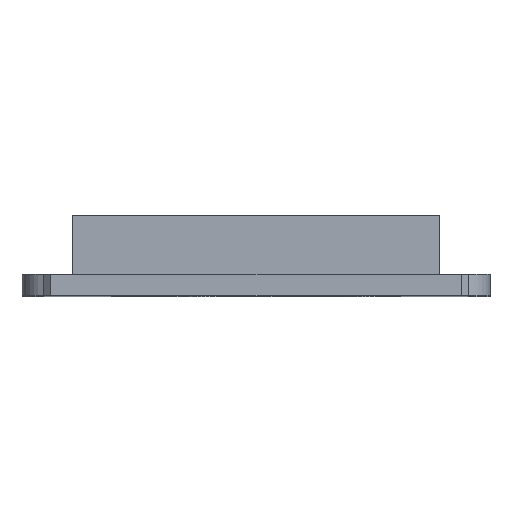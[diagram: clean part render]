
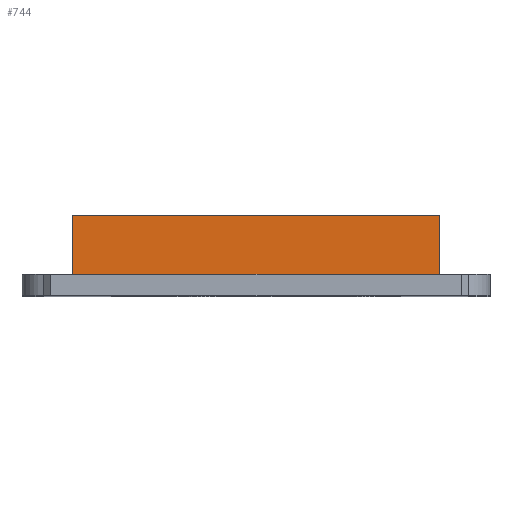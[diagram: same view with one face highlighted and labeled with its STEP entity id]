
A CAD part, top view. The second image highlights one B-rep face of the part: STEP entity #744.
In plain terms, the highlighted planar face has unit normal (0, 0, 1).
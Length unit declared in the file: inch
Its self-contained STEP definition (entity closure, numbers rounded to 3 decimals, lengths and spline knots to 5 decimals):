
#55 = LINE ( 'NONE', #1696, #782 ) ;
#151 = VECTOR ( 'NONE', #909, 39.37008 ) ;
#365 = ORIENTED_EDGE ( 'NONE', *, *, #1622, .T. ) ;
#699 = CARTESIAN_POINT ( 'NONE',  ( -0.2, 0.56, 0.2 ) ) ;
#741 = PLANE ( 'NONE',  #2829 ) ;
#744 = ADVANCED_FACE ( 'NONE', ( #2086 ), #741, .F. ) ;
#752 = ORIENTED_EDGE ( 'NONE', *, *, #993, .F. ) ;
#765 = DIRECTION ( 'NONE',  ( 0., 0., -1. ) ) ;
#767 = DIRECTION ( 'NONE',  ( -1., 0., 0. ) ) ;
#771 = CARTESIAN_POINT ( 'NONE',  ( -0.2, 0.56, 0.2 ) ) ;
#782 = VECTOR ( 'NONE', #1685, 39.37008 ) ;
#868 = VERTEX_POINT ( 'NONE', #1123 ) ;
#885 = EDGE_CURVE ( 'NONE', #2490, #868, #3042, .T. ) ;
#909 = DIRECTION ( 'NONE',  ( 1., 0., 0. ) ) ;
#993 = EDGE_CURVE ( 'NONE', #1454, #868, #55, .T. ) ;
#1099 = EDGE_LOOP ( 'NONE', ( #365, #2783, #752, #2412 ) ) ;
#1106 = CARTESIAN_POINT ( 'NONE',  ( -0.2, 0.15, 0.2 ) ) ;
#1123 = CARTESIAN_POINT ( 'NONE',  ( 2.35, 0.15, 0.2 ) ) ;
#1129 = CARTESIAN_POINT ( 'NONE',  ( -0.2, 0.15, 0.2 ) ) ;
#1179 = DIRECTION ( 'NONE',  ( 1., 0., 0. ) ) ;
#1202 = CARTESIAN_POINT ( 'NONE',  ( -0.2, 0.56, 0.2 ) ) ;
#1454 = VERTEX_POINT ( 'NONE', #3031 ) ;
#1622 = EDGE_CURVE ( 'NONE', #2579, #2490, #2716, .T. ) ;
#1685 = DIRECTION ( 'NONE',  ( 0., -1., 0. ) ) ;
#1696 = CARTESIAN_POINT ( 'NONE',  ( 2.35, 0.56, 0.2 ) ) ;
#1701 = DIRECTION ( 'NONE',  ( 0., -1., 0. ) ) ;
#2043 = VECTOR ( 'NONE', #1701, 39.37008 ) ;
#2086 = FACE_OUTER_BOUND ( 'NONE', #1099, .T. ) ;
#2366 = VECTOR ( 'NONE', #1179, 39.37008 ) ;
#2412 = ORIENTED_EDGE ( 'NONE', *, *, #3034, .F. ) ;
#2420 = CARTESIAN_POINT ( 'NONE',  ( -0.2, 0.56, 0.2 ) ) ;
#2490 = VERTEX_POINT ( 'NONE', #1106 ) ;
#2579 = VERTEX_POINT ( 'NONE', #1202 ) ;
#2593 = LINE ( 'NONE', #2420, #151 ) ;
#2716 = LINE ( 'NONE', #771, #2043 ) ;
#2783 = ORIENTED_EDGE ( 'NONE', *, *, #885, .T. ) ;
#2829 = AXIS2_PLACEMENT_3D ( 'NONE', #699, #765, #767 ) ;
#3031 = CARTESIAN_POINT ( 'NONE',  ( 2.35, 0.56, 0.2 ) ) ;
#3034 = EDGE_CURVE ( 'NONE', #2579, #1454, #2593, .T. ) ;
#3042 = LINE ( 'NONE', #1129, #2366 ) ;
